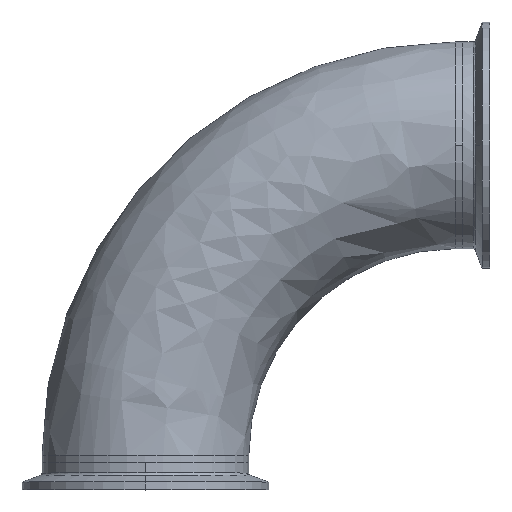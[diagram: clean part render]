
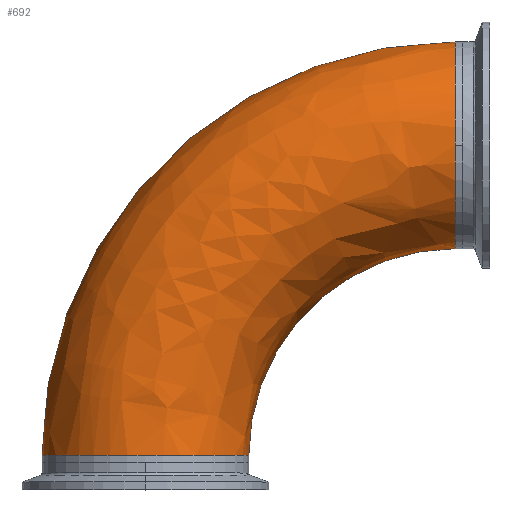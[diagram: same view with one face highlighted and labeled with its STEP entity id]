
A CAD part, top view. The second image highlights one B-rep face of the part: STEP entity #692.
In plain terms, the highlighted free-form (B-spline) face has degree [3, 3] with [4, 4] control points.
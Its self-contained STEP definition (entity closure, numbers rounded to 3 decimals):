
#94 = CIRCLE ( 'NONE', #2426, 38.1 ) ;
#232 = CARTESIAN_POINT ( 'NONE',  ( 38.1, 2.7, 0. ) ) ;
#286 = EDGE_CURVE ( 'NONE', #2983, #2065, #2869, .T. ) ;
#530 = VERTEX_POINT ( 'NONE', #814 ) ;
#540 = DIRECTION ( 'NONE',  ( -1., 0., 0. ) ) ;
#550 = DIRECTION ( 'NONE',  ( 0., 0., -1. ) ) ;
#558 = CARTESIAN_POINT ( 'NONE',  ( 114.3, 2.7, 0. ) ) ;
#617 = ORIENTED_EDGE ( 'NONE', *, *, #1386, .F. ) ;
#692 = ADVANCED_FACE ( 'NONE', ( #979 ), #3305, .T. ) ;
#788 = VERTEX_POINT ( 'NONE', #232 ) ;
#814 = CARTESIAN_POINT ( 'NONE',  ( 114.3, 155.1, 0. ) ) ;
#936 = CIRCLE ( 'NONE', #2314, 38.1 ) ;
#979 = FACE_OUTER_BOUND ( 'NONE', #1139, .T. ) ;
#995 = VERTEX_POINT ( 'NONE', #3511 ) ;
#1139 = EDGE_LOOP ( 'NONE', ( #1733, #2987, #1530, #3227, #617 ) ) ;
#1386 = EDGE_CURVE ( 'NONE', #995, #530, #2172, .T. ) ;
#1425 = CARTESIAN_POINT ( 'NONE',  ( 114.3, 117., 0. ) ) ;
#1452 = CARTESIAN_POINT ( 'NONE',  ( 0., 2.7, 0. ) ) ;
#1465 = DIRECTION ( 'NONE',  ( 0., 1., 0. ) ) ;
#1477 = DIRECTION ( 'NONE',  ( -1., 0., 0. ) ) ;
#1530 = ORIENTED_EDGE ( 'NONE', *, *, #286, .T. ) ;
#1557 = CARTESIAN_POINT ( 'NONE',  ( 114.3, 78.9, 0. ) ) ;
#1710 = DIRECTION ( 'NONE',  ( 0., 1., 0. ) ) ;
#1733 = ORIENTED_EDGE ( 'NONE', *, *, #1938, .T. ) ;
#1790 = CARTESIAN_POINT ( 'NONE',  ( 114.3, 117., 38.1 ) ) ;
#1821 = DIRECTION ( 'NONE',  ( 0., 1., 0. ) ) ;
#1938 = EDGE_CURVE ( 'NONE', #995, #788, #94, .T. ) ;
#2038 = DIRECTION ( 'NONE',  ( -1., 0., 0. ) ) ;
#2049 = EDGE_CURVE ( 'NONE', #788, #2983, #2329, .T. ) ;
#2065 = VERTEX_POINT ( 'NONE', #1790 ) ;
#2128 = CARTESIAN_POINT ( 'NONE',  ( 114.3, 117., 0. ) ) ;
#2172 = CIRCLE ( 'NONE', #2330, 152.4 ) ;
#2314 = AXIS2_PLACEMENT_3D ( 'NONE', #1425, #3286, #1710 ) ;
#2321 = CARTESIAN_POINT ( 'NONE',  ( 114.3, 2.7, 0. ) ) ;
#2329 = CIRCLE ( 'NONE', #3290, 76.2 ) ;
#2330 = AXIS2_PLACEMENT_3D ( 'NONE', #558, #550, #540 ) ;
#2409 = DIRECTION ( 'NONE',  ( 0., 0., -1. ) ) ;
#2426 = AXIS2_PLACEMENT_3D ( 'NONE', #1452, #1465, #1477 ) ;
#2430 = DIRECTION ( 'NONE',  ( -1., 0., 0. ) ) ;
#2562 = AXIS2_PLACEMENT_3D ( 'NONE', #2128, #2038, #1821 ) ;
#2571 = CARTESIAN_POINT ( 'NONE',  ( -38.1, 2.7, 0. ) ) ;
#2583 = CARTESIAN_POINT ( 'NONE',  ( -38.1, 91.974, 0. ) ) ;
#2721 = CARTESIAN_POINT ( 'NONE',  ( 25.026, 155.1, 0. ) ) ;
#2738 = CARTESIAN_POINT ( 'NONE',  ( 114.3, 155.1, 0. ) ) ;
#2750 = CARTESIAN_POINT ( 'NONE',  ( -38.1, 2.7, 76.2 ) ) ;
#2759 = CARTESIAN_POINT ( 'NONE',  ( -38.1, 91.974, 76.2 ) ) ;
#2792 = CARTESIAN_POINT ( 'NONE',  ( 25.026, 155.1, 76.2 ) ) ;
#2804 = CARTESIAN_POINT ( 'NONE',  ( 114.3, 155.1, 76.2 ) ) ;
#2811 = CARTESIAN_POINT ( 'NONE',  ( 38.1, 2.7, 76.2 ) ) ;
#2834 = CARTESIAN_POINT ( 'NONE',  ( 38.1, 47.337, 76.2 ) ) ;
#2842 = CARTESIAN_POINT ( 'NONE',  ( 69.663, 78.9, 76.2 ) ) ;
#2854 = CARTESIAN_POINT ( 'NONE',  ( 114.3, 78.9, 76.2 ) ) ;
#2869 = CIRCLE ( 'NONE', #2562, 38.1 ) ;
#2882 = CARTESIAN_POINT ( 'NONE',  ( 38.1, 2.7, 0. ) ) ;
#2888 = CARTESIAN_POINT ( 'NONE',  ( 38.1, 47.337, 0. ) ) ;
#2895 = CARTESIAN_POINT ( 'NONE',  ( 69.663, 78.9, 0. ) ) ;
#2922 = CARTESIAN_POINT ( 'NONE',  ( 114.3, 78.9, 0. ) ) ;
#2983 = VERTEX_POINT ( 'NONE', #1557 ) ;
#2987 = ORIENTED_EDGE ( 'NONE', *, *, #2049, .T. ) ;
#3227 = ORIENTED_EDGE ( 'NONE', *, *, #3279, .T. ) ;
#3279 = EDGE_CURVE ( 'NONE', #2065, #530, #936, .T. ) ;
#3286 = DIRECTION ( 'NONE',  ( -1., 0., 0. ) ) ;
#3290 = AXIS2_PLACEMENT_3D ( 'NONE', #2321, #2409, #2430 ) ;
#3305 =( BOUNDED_SURFACE ( )  B_SPLINE_SURFACE ( 3, 3, ( 
 ( #2571, #2583, #2721, #2738 ),
 ( #2750, #2759, #2792, #2804 ),
 ( #2811, #2834, #2842, #2854 ),
 ( #2882, #2888, #2895, #2922 ) ),
 .UNSPECIFIED., .F., .F., .F. ) 
 B_SPLINE_SURFACE_WITH_KNOTS ( ( 4, 4 ),
 ( 4, 4 ),
 ( 0., 1. ),
 ( 0., 1. ),
 .UNSPECIFIED. ) 
 GEOMETRIC_REPRESENTATION_ITEM ( )  RATIONAL_B_SPLINE_SURFACE ( (
 ( 1., 0.805, 0.805, 1.),
 ( 0.333, 0.268, 0.268, 0.333),
 ( 0.333, 0.268, 0.268, 0.333),
 ( 1., 0.805, 0.805, 1.) ) ) 
 REPRESENTATION_ITEM ( '' )  SURFACE ( )  );
#3511 = CARTESIAN_POINT ( 'NONE',  ( -38.1, 2.7, 0. ) ) ;
